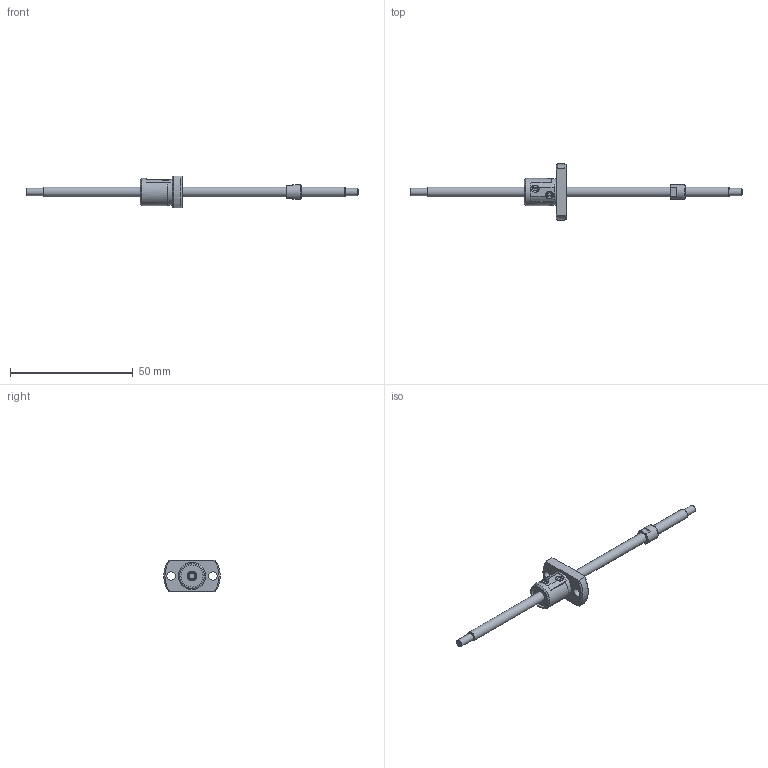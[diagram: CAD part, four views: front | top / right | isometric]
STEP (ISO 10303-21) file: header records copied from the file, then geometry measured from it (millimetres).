
FILE_DESCRIPTION(/* description */ ('STEP AP214'),/* implementation_level */ '2;1');
FILE_NAME(/* name */ 'SG0401-096R135C3C0X(39.5)',/* time_stamp */ '2026-07-20T19:40:03+02:00',/* author */ ('License CC BY-ND 4.0'),/* organization */ ('CADENAS'),/* preprocessor_version */ 'ST-DEVELOPER v20',/* originating_system */ 'PARTsolutions',/* authorisation */ ' ');
FILE_SCHEMA (('AUTOMOTIVE_DESIGN {1 0 10303 214 3 1 1}'));
Length unit declared in the file: millimetre
Products named in the file (3): SG0401-096R135C3C0X(39.5); SG0401-96R135C3C_shaft; SG0401_nut
Assembly tree (2 placements, depth 2):
  SG0401-096R135C3C0X(39.5)
    SG0401-96R135C3C_shaft
    SG0401_nut
Bounding box: 135 x 22.92 x 13 mm (x, y, z)
Volume: 3637.7 mm3; surface area: 3292 mm2
Topology: 2 solids, 2 shells, 74 faces, 178 edges, 117 vertices
Faces by surface type: plane 35, cylinder 24, cone 14, torus 1
Full cylindrical faces by diameter (mm): 3 x2, 3.4 x2, 4 x3, 6 x1, 9 x2, 10.6 x1, 11 x1
Entity records: 2085 total; most frequent: CARTESIAN_POINT 389, DIRECTION 352, ORIENTED_EDGE 292, AXIS2_PLACEMENT_3D 147, EDGE_CURVE 146, EDGE_LOOP 112, FACE_BOUND 112, VERTEX_POINT 108
